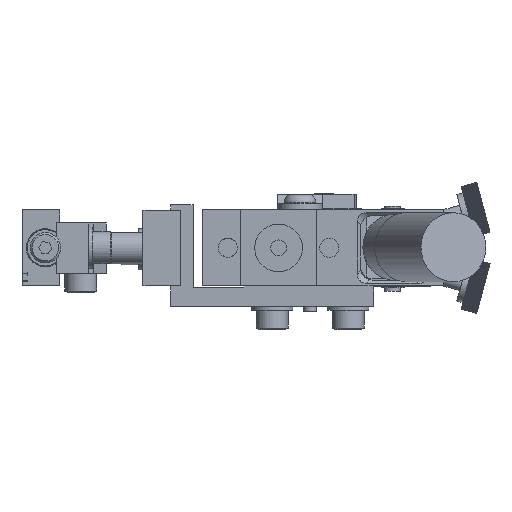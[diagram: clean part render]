
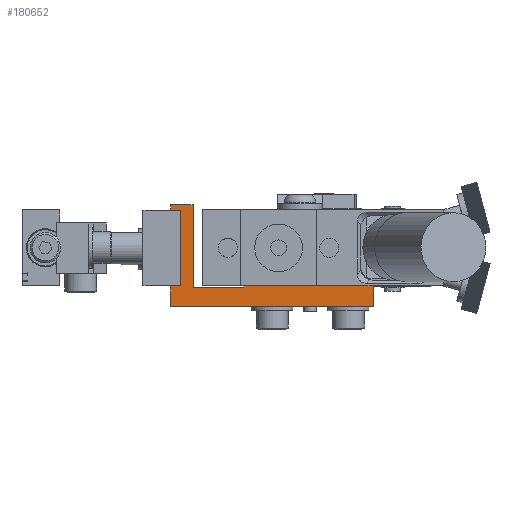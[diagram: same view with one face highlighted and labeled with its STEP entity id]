
A CAD part, left-side view. The second image highlights one B-rep face of the part: STEP entity #180652.
In plain terms, the highlighted planar face has unit normal (-1, 0, 0).
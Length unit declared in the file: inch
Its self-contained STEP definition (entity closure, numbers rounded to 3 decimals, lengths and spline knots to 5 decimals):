
#22927=CARTESIAN_POINT('',(-0.4995,1.8755,0.));
#22928=VERTEX_POINT('',#22927);
#22994=CARTESIAN_POINT('',(-0.4995,1.8755,0.745));
#22995=VERTEX_POINT('',#22994);
#23676=CARTESIAN_POINT('',(-0.4995,1.8755,0.));
#23677=DIRECTION('',(0.0,0.0,1.0));
#23678=VECTOR('',#23677,0.745);
#23679=LINE('',#23676,#23678);
#23680=EDGE_CURVE('',#22928,#22995,#23679,.T.);
#180202=CARTESIAN_POINT('',(-0.4995,1.1555,0.));
#180203=VERTEX_POINT('',#180202);
#180210=CARTESIAN_POINT('',(-0.4995,-0.1245,0.));
#180211=VERTEX_POINT('',#180210);
#180212=CARTESIAN_POINT('',(-0.4995,1.1555,0.));
#180213=DIRECTION('',(0.0,-1.0,0.0));
#180214=VECTOR('',#180213,1.28);
#180215=LINE('',#180212,#180214);
#180216=EDGE_CURVE('',#180203,#180211,#180215,.T.);
#180583=CARTESIAN_POINT('',(-0.4995,0.76361,-0.10189));
#180584=DIRECTION('',(1.0,0.0,0.0));
#180585=DIRECTION('',(0.0,-1.0,0.0));
#180586=AXIS2_PLACEMENT_3D('',#180583,#180584,#180585);
#180587=PLANE('',#180586);
#180588=CARTESIAN_POINT('',(-0.4995,1.8755,-0.2));
#180589=VERTEX_POINT('',#180588);
#180590=CARTESIAN_POINT('',(-0.4995,-0.1245,-0.2));
#180591=VERTEX_POINT('',#180590);
#180592=CARTESIAN_POINT('',(-0.4995,1.8755,-0.2));
#180593=DIRECTION('',(0.0,-1.0,0.0));
#180594=VECTOR('',#180593,2.);
#180595=LINE('',#180592,#180594);
#180596=EDGE_CURVE('',#180589,#180591,#180595,.T.);
#180597=ORIENTED_EDGE('',*,*,#180596,.T.);
#180598=CARTESIAN_POINT('',(-0.4995,-0.1245,-0.2));
#180599=DIRECTION('',(0.0,0.0,1.0));
#180600=VECTOR('',#180599,0.2);
#180601=LINE('',#180598,#180600);
#180602=EDGE_CURVE('',#180591,#180211,#180601,.T.);
#180603=ORIENTED_EDGE('',*,*,#180602,.T.);
#180604=ORIENTED_EDGE('',*,*,#180216,.F.);
#180605=CARTESIAN_POINT('',(-0.4995,1.1555,-0.015));
#180606=VERTEX_POINT('',#180605);
#180607=CARTESIAN_POINT('',(-0.4995,1.1555,0.));
#180608=DIRECTION('',(0.0,0.0,-1.0));
#180609=VECTOR('',#180608,0.015);
#180610=LINE('',#180607,#180609);
#180611=EDGE_CURVE('',#180203,#180606,#180610,.T.);
#180612=ORIENTED_EDGE('',*,*,#180611,.T.);
#180613=CARTESIAN_POINT('',(-0.4995,1.6555,-0.015));
#180614=VERTEX_POINT('',#180613);
#180615=CARTESIAN_POINT('',(-0.4995,1.1555,-0.015));
#180616=DIRECTION('',(0.0,1.0,0.0));
#180617=VECTOR('',#180616,0.5);
#180618=LINE('',#180615,#180617);
#180619=EDGE_CURVE('',#180606,#180614,#180618,.T.);
#180620=ORIENTED_EDGE('',*,*,#180619,.T.);
#180621=CARTESIAN_POINT('',(-0.4995,1.6555,0.8));
#180622=VERTEX_POINT('',#180621);
#180623=CARTESIAN_POINT('',(-0.4995,1.6555,-0.015));
#180624=DIRECTION('',(0.0,0.0,1.0));
#180625=VECTOR('',#180624,0.815);
#180626=LINE('',#180623,#180625);
#180627=EDGE_CURVE('',#180614,#180622,#180626,.T.);
#180628=ORIENTED_EDGE('',*,*,#180627,.T.);
#180629=CARTESIAN_POINT('',(-0.4995,1.8755,0.8));
#180630=VERTEX_POINT('',#180629);
#180631=CARTESIAN_POINT('',(-0.4995,1.6555,0.8));
#180632=DIRECTION('',(0.0,1.0,0.0));
#180633=VECTOR('',#180632,0.22);
#180634=LINE('',#180631,#180633);
#180635=EDGE_CURVE('',#180622,#180630,#180634,.T.);
#180636=ORIENTED_EDGE('',*,*,#180635,.T.);
#180637=CARTESIAN_POINT('',(-0.4995,1.8755,0.8));
#180638=DIRECTION('',(0.0,0.0,-1.0));
#180639=VECTOR('',#180638,0.055);
#180640=LINE('',#180637,#180639);
#180641=EDGE_CURVE('',#180630,#22995,#180640,.T.);
#180642=ORIENTED_EDGE('',*,*,#180641,.T.);
#180643=ORIENTED_EDGE('',*,*,#23680,.F.);
#180644=CARTESIAN_POINT('',(-0.4995,1.8755,0.));
#180645=DIRECTION('',(0.0,0.0,-1.0));
#180646=VECTOR('',#180645,0.2);
#180647=LINE('',#180644,#180646);
#180648=EDGE_CURVE('',#22928,#180589,#180647,.T.);
#180649=ORIENTED_EDGE('',*,*,#180648,.T.);
#180650=EDGE_LOOP('',(#180597,#180603,#180604,#180612,#180620,#180628,#180636,#180642,#180643,#180649));
#180651=FACE_OUTER_BOUND('',#180650,.T.);
#180652=ADVANCED_FACE('',(#180651),#180587,.F.);
